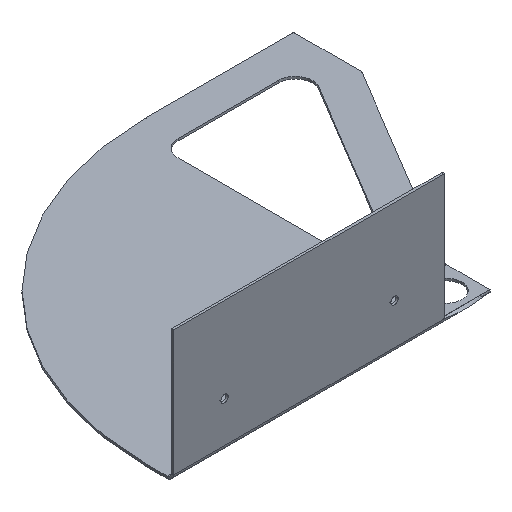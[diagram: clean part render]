
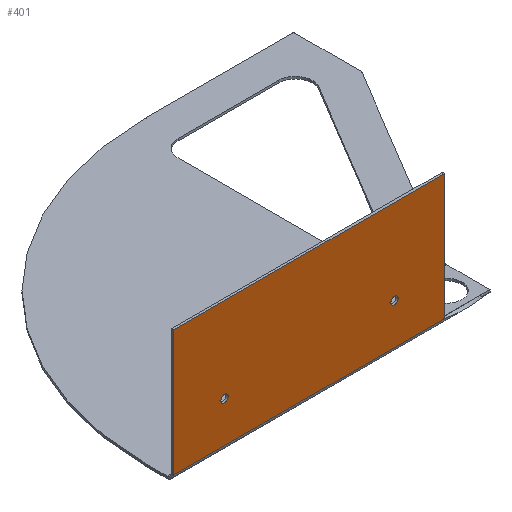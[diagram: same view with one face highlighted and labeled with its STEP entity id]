
A CAD part, isometric view. The second image highlights one B-rep face of the part: STEP entity #401.
In plain terms, the highlighted planar face has unit normal (0, -1, 0).
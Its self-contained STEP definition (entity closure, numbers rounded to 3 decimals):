
#13 = VECTOR ( 'NONE', #457, 1000. ) ;
#14 = DIRECTION ( 'NONE',  ( 0., -1., 0. ) ) ;
#16 = EDGE_CURVE ( 'NONE', #572, #1149, #944, .T. ) ;
#58 = CARTESIAN_POINT ( 'NONE',  ( -215.75, -23., 40.5 ) ) ;
#63 = ORIENTED_EDGE ( 'NONE', *, *, #362, .F. ) ;
#64 = CIRCLE ( 'NONE', #534, 3.25 ) ;
#73 = DIRECTION ( 'NONE',  ( -1., 0., 0. ) ) ;
#97 = VECTOR ( 'NONE', #492, 1000. ) ;
#109 = ORIENTED_EDGE ( 'NONE', *, *, #237, .F. ) ;
#114 = VERTEX_POINT ( 'NONE', #1085 ) ;
#152 = FACE_BOUND ( 'NONE', #576, .T. ) ;
#181 = EDGE_LOOP ( 'NONE', ( #523, #680, #507, #1032 ) ) ;
#200 = CARTESIAN_POINT ( 'NONE',  ( -264., -23., 115.5 ) ) ;
#202 = DIRECTION ( 'NONE',  ( 0., 0., -1. ) ) ;
#203 = CIRCLE ( 'NONE', #624, 3.25 ) ;
#215 = AXIS2_PLACEMENT_3D ( 'NONE', #814, #285, #911 ) ;
#237 = EDGE_CURVE ( 'NONE', #577, #574, #524, .T. ) ;
#258 = CARTESIAN_POINT ( 'NONE',  ( -69., -23., 40.5 ) ) ;
#285 = DIRECTION ( 'NONE',  ( 0., -1., 0. ) ) ;
#302 = EDGE_LOOP ( 'NONE', ( #63, #350 ) ) ;
#326 = LINE ( 'NONE', #850, #97 ) ;
#350 = ORIENTED_EDGE ( 'NONE', *, *, #764, .F. ) ;
#352 = DIRECTION ( 'NONE',  ( 1., 0., 0. ) ) ;
#353 = DIRECTION ( 'NONE',  ( 0., -1., 0. ) ) ;
#362 = EDGE_CURVE ( 'NONE', #114, #1057, #203, .T. ) ;
#401 = ADVANCED_FACE ( 'NONE', ( #152, #615, #1102 ), #418, .F. ) ;
#402 = CARTESIAN_POINT ( 'NONE',  ( -222.25, -23., 40.5 ) ) ;
#418 = PLANE ( 'NONE',  #935 ) ;
#437 = DIRECTION ( 'NONE',  ( -1., 0., 0. ) ) ;
#457 = DIRECTION ( 'NONE',  ( -1., 0., 0. ) ) ;
#492 = DIRECTION ( 'NONE',  ( 0., 0., -1. ) ) ;
#503 = EDGE_CURVE ( 'NONE', #572, #733, #758, .T. ) ;
#507 = ORIENTED_EDGE ( 'NONE', *, *, #929, .F. ) ;
#509 = CARTESIAN_POINT ( 'NONE',  ( -264., -23., 231. ) ) ;
#523 = ORIENTED_EDGE ( 'NONE', *, *, #503, .T. ) ;
#524 = CIRCLE ( 'NONE', #215, 3.25 ) ;
#534 = AXIS2_PLACEMENT_3D ( 'NONE', #887, #353, #979 ) ;
#535 = CARTESIAN_POINT ( 'NONE',  ( -219., -23., 40.5 ) ) ;
#572 = VERTEX_POINT ( 'NONE', #580 ) ;
#574 = VERTEX_POINT ( 'NONE', #58 ) ;
#576 = EDGE_LOOP ( 'NONE', ( #909, #109 ) ) ;
#577 = VERTEX_POINT ( 'NONE', #402 ) ;
#580 = CARTESIAN_POINT ( 'NONE',  ( -25., -23., 115.5 ) ) ;
#594 = DIRECTION ( 'NONE',  ( 0., 1., 0. ) ) ;
#615 = FACE_BOUND ( 'NONE', #302, .T. ) ;
#622 = DIRECTION ( 'NONE',  ( 1., 0., 0. ) ) ;
#624 = AXIS2_PLACEMENT_3D ( 'NONE', #258, #886, #352 ) ;
#637 = CARTESIAN_POINT ( 'NONE',  ( -25., -23., 231. ) ) ;
#642 = EDGE_CURVE ( 'NONE', #574, #577, #1156, .T. ) ;
#680 = ORIENTED_EDGE ( 'NONE', *, *, #741, .T. ) ;
#733 = VERTEX_POINT ( 'NONE', #1033 ) ;
#741 = EDGE_CURVE ( 'NONE', #733, #995, #326, .T. ) ;
#758 = LINE ( 'NONE', #200, #13 ) ;
#764 = EDGE_CURVE ( 'NONE', #1057, #114, #64, .T. ) ;
#768 = VECTOR ( 'NONE', #437, 1000. ) ;
#801 = CARTESIAN_POINT ( 'NONE',  ( -264., -23., 4.6 ) ) ;
#814 = CARTESIAN_POINT ( 'NONE',  ( -219., -23., 40.5 ) ) ;
#850 = CARTESIAN_POINT ( 'NONE',  ( -264., -23., 231. ) ) ;
#858 = AXIS2_PLACEMENT_3D ( 'NONE', #535, #14, #622 ) ;
#868 = LINE ( 'NONE', #1072, #768 ) ;
#886 = DIRECTION ( 'NONE',  ( 0., -1., 0. ) ) ;
#887 = CARTESIAN_POINT ( 'NONE',  ( -69., -23., 40.5 ) ) ;
#909 = ORIENTED_EDGE ( 'NONE', *, *, #642, .F. ) ;
#911 = DIRECTION ( 'NONE',  ( 1., 0., 0. ) ) ;
#923 = VECTOR ( 'NONE', #202, 1000. ) ;
#929 = EDGE_CURVE ( 'NONE', #1149, #995, #868, .T. ) ;
#935 = AXIS2_PLACEMENT_3D ( 'NONE', #509, #594, #73 ) ;
#944 = LINE ( 'NONE', #637, #923 ) ;
#979 = DIRECTION ( 'NONE',  ( 1., 0., 0. ) ) ;
#995 = VERTEX_POINT ( 'NONE', #801 ) ;
#998 = CARTESIAN_POINT ( 'NONE',  ( -72.25, -23., 40.5 ) ) ;
#1032 = ORIENTED_EDGE ( 'NONE', *, *, #16, .F. ) ;
#1033 = CARTESIAN_POINT ( 'NONE',  ( -264., -23., 115.5 ) ) ;
#1057 = VERTEX_POINT ( 'NONE', #998 ) ;
#1072 = CARTESIAN_POINT ( 'NONE',  ( -25., -23., 4.6 ) ) ;
#1085 = CARTESIAN_POINT ( 'NONE',  ( -65.75, -23., 40.5 ) ) ;
#1102 = FACE_OUTER_BOUND ( 'NONE', #181, .T. ) ;
#1140 = CARTESIAN_POINT ( 'NONE',  ( -25., -23., 4.6 ) ) ;
#1149 = VERTEX_POINT ( 'NONE', #1140 ) ;
#1156 = CIRCLE ( 'NONE', #858, 3.25 ) ;
